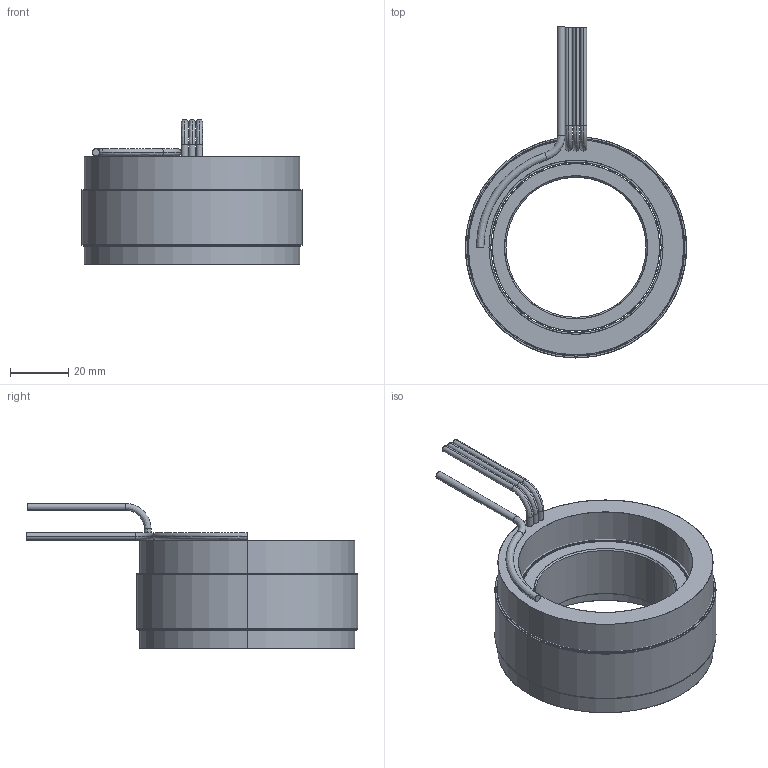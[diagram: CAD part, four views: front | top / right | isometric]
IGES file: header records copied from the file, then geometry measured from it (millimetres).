
Start section: SolidWorks IGES file using analytic representation for surfaces
Global section: file name: \\fs01.aveox.local\user documents\eng\My Documents\6100392-XX UAV STANDARD STATOR AND ROTOR SET 3.0 OD 27S24P\6100392-01.IGS; native system: SolidWorks 2016; preprocessor: SolidWorks 2016; author: eng; date: 201214.185853; units: inch
Bounding box: 76.2 x 114.3 x 49.91 mm (x, y, z)
Surface area: 54574.2 mm2 (no closed solid volume)
Topology: 0 solids, 0 shells, 75 faces, 2284 edges, 2284 vertices
Faces by surface type: revolution 46, bspline 29
